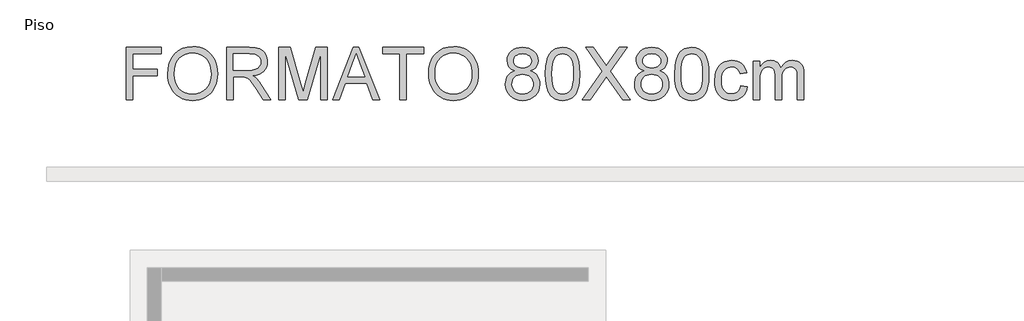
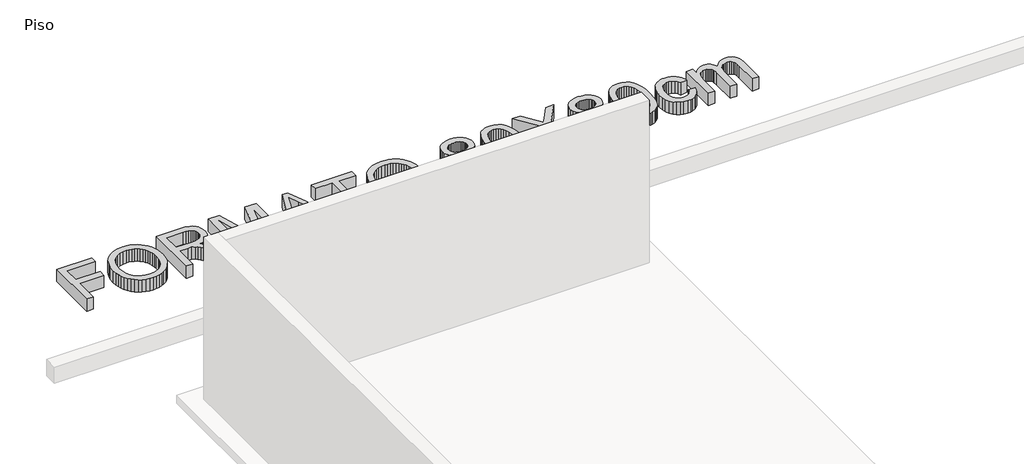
# One storey, part 2 of 2: 1 proxy.
"""IFC4 building model written with IfcOpenShell, lengths in millimetres."""

import ifcopenshell
import ifcopenshell.guid

model = None  # the IFC model being written
_history = None  # IfcOwnerHistory: only IFC2X3 demands one
_inside = {}  # id of a spatial element -> (the spatial element, [elements in it])
_under = {}  # id of a project, library or spatial element -> (it, [spatial elements below it])
_declared = {}  # id of a project -> (the project, [libraries it declares])
_typed = {}  # id of a type object -> (the type object, [elements of that type])
_made_of = {}  # id of a material, layer set ... -> (it, [elements and type objects made of it])


def new_model(schema):
    """Start an empty IFC model of exactly this schema.

    Asked for "IFC4X3", IfcOpenShell would pick the latest addendum, in which some entities
    have other attributes; the version numbers below select the first issue.
    IFC2X3 requires an IfcOwnerHistory on every rooted entity: one is made here for all.
    """
    global model, _history
    if schema == "IFC4X3":
        model = ifcopenshell.file(schema_version=(4, 3, 0, 0))
    else:
        model = ifcopenshell.file(schema=schema)
    _inside.clear()
    _under.clear()
    _declared.clear()
    _typed.clear()
    _made_of.clear()
    _history = None
    if model.schema == "IFC2X3":
        org = make("IfcOrganization", Name="unknown")
        user = make(
            "IfcPersonAndOrganization",
            ThePerson=make("IfcPerson", FamilyName="unknown"),
            TheOrganization=org,
        )
        app = make(
            "IfcApplication",
            ApplicationDeveloper=org,
            Version="unknown",
            ApplicationFullName="unknown",
            ApplicationIdentifier="unknown",
        )
        _history = make(
            "IfcOwnerHistory",
            OwningUser=user,
            OwningApplication=app,
            ChangeAction="ADDED",
            CreationDate=0,
        )
    return model


def make(cls, **values):
    """One entity of the class cls with the attributes given. An attribute that is None is left unset."""
    return model.create_entity(
        cls, **{name: value for name, value in values.items() if value is not None}
    )


def rooted(cls, **values):
    """An entity with a GlobalId (a new one), such as an element, a storey or a relation."""
    return make(cls, GlobalId=ifcopenshell.guid.new(), OwnerHistory=_history, **values)


def si_unit(unit_type, name, prefix=None):
    """IfcSIUnit, for example si_unit("LENGTHUNIT", "METRE", prefix="MILLI")."""
    return make("IfcSIUnit", UnitType=unit_type, Prefix=prefix, Name=name)


def assignment(units):
    """IfcUnitAssignment: the units of a project."""
    return None if units is None else make("IfcUnitAssignment", Units=units)


def point(xyz):
    """IfcCartesianPoint."""
    return None if xyz is None else make("IfcCartesianPoint", Coordinates=xyz)


def direction(xyz):
    """IfcDirection."""
    return None if xyz is None else make("IfcDirection", DirectionRatios=xyz)


def frame(location, z_axis=None, x_axis=None):
    """IfcAxis2Placement3D, a coordinate frame: its origin and axes. An axis left out is left unset."""
    return make(
        "IfcAxis2Placement3D",
        Location=point(location),
        Axis=direction(z_axis),
        RefDirection=direction(x_axis),
    )


def origin():
    """The frame at (0, 0, 0) with its axes left unset."""
    return frame((0.0, 0.0, 0.0))


def origin_with_axes():
    """The frame at (0, 0, 0) with the z axis (0, 0, 1) and the x axis (1, 0, 0) written out."""
    return frame((0.0, 0.0, 0.0), z_axis=(0.0, 0.0, 1.0), x_axis=(1.0, 0.0, 0.0))


def place(relative_to, where):
    """IfcLocalPlacement: puts the frame where relative to a parent placement (None: the world)."""
    return make(
        "IfcLocalPlacement", PlacementRelTo=relative_to, RelativePlacement=where
    )


def context(
    kind, dimensions, precision=None, world=None, true_north=None, identifier=None
):
    """IfcGeometricRepresentationContext, for example the 3D "Model" context."""
    return make(
        "IfcGeometricRepresentationContext",
        ContextIdentifier=identifier,
        ContextType=kind,
        CoordinateSpaceDimension=dimensions,
        Precision=precision,
        WorldCoordinateSystem=world,
        TrueNorth=true_north,
    )


def project(units=None, contexts=None):
    """IfcProject with its units and contexts."""
    return rooted(
        "IfcProject",
        Name="project",
        RepresentationContexts=contexts,
        UnitsInContext=assignment(units),
    )


def spatial(cls, under=None, at=None, **own):
    """A site, building, storey or space (cls), placed at a placement, below another one or the project."""
    s = rooted(cls, ObjectPlacement=at, **own)
    if under is not None:
        _under.setdefault(under.id(), (under, []))[1].append(s)
    return s


def polyline(points):
    """IfcPolyline through the points."""
    return make("IfcPolyline", Points=[point(p) for p in points])


def outline(outer, holes=None, kind="AREA"):
    """IfcArbitraryClosedProfileDef: a profile drawn as a closed curve; with holes, ...WithVoids."""
    if holes is None:
        return make("IfcArbitraryClosedProfileDef", ProfileType=kind, OuterCurve=outer)
    return make(
        "IfcArbitraryProfileDefWithVoids",
        ProfileType=kind,
        OuterCurve=outer,
        InnerCurves=holes,
    )


def extrude(swept, where, along, depth):
    """IfcExtrudedAreaSolid: the profile swept, set in the frame where, extruded along a direction by depth."""
    return make(
        "IfcExtrudedAreaSolid",
        SweptArea=swept,
        Position=where,
        ExtrudedDirection=direction(along),
        Depth=depth,
    )


def shape(context_of_items, identifier, shape_type, items):
    """IfcShapeRepresentation: the items that make up one representation, for example the "Body"."""
    return make(
        "IfcShapeRepresentation",
        ContextOfItems=context_of_items,
        RepresentationIdentifier=identifier,
        RepresentationType=shape_type,
        Items=items,
    )


def made_of(thing, what):
    """Note that an element or type object is made of a material, layer set ...; save() writes the relation."""
    if what is not None:
        _made_of.setdefault(what.id(), (what, []))[1].append(thing)
    return thing


def element(
    cls,
    number,
    at=None,
    inside=None,
    cuts=None,
    type_object=None,
    material=None,
    context=None,
    identifier="Body",
    shape_type=None,
    held_by="IfcProductDefinitionShape",
    body=None,
    shapes=None,
    **own,
):
    """One element of the class cls, such as IfcWall. Its Tag is "e" and its number.

    at: its placement. inside: the storey or other place that contains it. cuts: it is an
    opening in that element (IfcRelVoidsElement). A single representation is given by context,
    identifier, shape_type and body (its items); several are given by shapes. held_by: the class
    of the entity that holds the representations. save() writes the other relations.
    """
    e = rooted(cls, Tag="e%d" % number, ObjectPlacement=at, **own)
    if body is not None:
        shapes = [shape(context, identifier, shape_type, body)]
    if shapes is not None:
        e.Representation = make(held_by, Representations=shapes)
    if inside is not None:
        _inside.setdefault(inside.id(), (inside, []))[1].append(e)
    if cuts is not None:
        rooted(
            "IfcRelVoidsElement", RelatingBuildingElement=cuts, RelatedOpeningElement=e
        )
    if type_object is not None:
        _typed.setdefault(type_object.id(), (type_object, []))[1].append(e)
    return made_of(e, material)


def aggregate(whole, parts):
    """IfcRelAggregates: a whole, such as a stair, and the parts it consists of."""
    return rooted("IfcRelAggregates", RelatingObject=whole, RelatedObjects=parts)


def save(model, path):
    """Write the relations noted so far, then the file.

    IfcRelAggregates (storeys below a building ...), IfcRelContainedInSpatialStructure (elements
    in a storey), IfcRelDefinesByType, IfcRelAssociatesMaterial and IfcRelDeclares: one each for
    every whole, place, type object, material and project.
    """
    for whole, parts in _under.values():
        aggregate(whole, parts)
    for where, things in _inside.values():
        rooted(
            "IfcRelContainedInSpatialStructure",
            RelatedElements=things,
            RelatingStructure=where,
        )
    for kind, things in _typed.values():
        rooted("IfcRelDefinesByType", RelatedObjects=things, RelatingType=kind)
    for what, things in _made_of.values():
        rooted("IfcRelAssociatesMaterial", RelatedObjects=things, RelatingMaterial=what)
    for by, libraries in _declared.values():
        rooted("IfcRelDeclares", RelatingContext=by, RelatedDefinitions=libraries)
    model.write(path)


model = new_model("IFC4")

# Units and contexts
model_context = context("Model", 3, world=origin())
ifc_project = project(units=[si_unit("LENGTHUNIT", "METRE", prefix="MILLI")], contexts=[model_context])

# Site, building, storey
site = spatial("IfcSite", under=ifc_project)
building = spatial("IfcBuilding", under=site)
storey = spatial("IfcBuildingStorey", under=building, Name="Piso", Elevation=0.0)

# Proxy
placement = place(None, origin())
element("IfcBuildingElementProxy", 1, Name="600mm Arial", ObjectType="600mm Arial", at=placement, inside=storey, context=model_context, shape_type="SweptSolid", body=[
    extrude(outline(polyline([(92602.0859381, 2702.6380465), (92602.0859381, 3305.3759074), (93007.0504384, 3305.3759074), (93007.0504384, 3230.0336748), (92677.4281707, 3230.0336748), (92677.4281707, 3051.0958724), (92959.961543, 3051.0958724), (92959.961543, 2975.7536397), (92677.4281707, 2975.7536397), (92677.4281707, 2702.6380465), (92602.0859381, 2702.6380465)])), origin_with_axes(), (0.0, 0.0, 1.0), 150.0),
    extrude(outline(polyline([(93082.392671, 2996.0607259), (93087.4142602, 3066.7584483), (93102.4790279, 3129.3443727), (93127.5869741, 3183.8184992), (93143.9071391, 3208.0136381), (93162.7380987, 3230.1808276), (93205.8262774, 3267.1989534), (93254.7453857, 3293.6404718), (93309.4954237, 3309.5053828), (93370.0763912, 3314.7936865), (93410.6261841, 3312.310483), (93449.134232, 3304.8608726), (93485.6005348, 3292.4448553), (93520.0250925, 3275.062431), (93551.4422148, 3253.2378317), (93578.8862117, 3227.495289), (93602.357083, 3197.8348032), (93621.8548287, 3164.2563741), (93637.1771138, 3127.5233569), (93648.1216032, 3088.3991067), (93654.6882968, 3046.8836235), (93656.8771947, 3002.9769074), (93654.5733337, 2958.4907771), (93647.6617507, 2916.4142739), (93636.1424457, 2876.7473978), (93620.0154187, 2839.4901487), (93599.6623474, 2805.6266111), (93575.4649091, 2776.1408692), (93547.423104, 2751.032923), (93515.5369321, 2730.3027726), (93481.0617906, 2714.0791766), (93445.2530769, 2702.4908937), (93408.110791, 2695.537924), (93369.6349328, 2693.2202674), (93328.3769671, 2695.7816458), (93289.3630815, 2703.465781), (93252.5932761, 2716.272673), (93218.0675508, 2734.2023217), (93186.6872166, 2756.56035), (93159.3535844, 2782.6523805), (93136.0666541, 2812.4784132), (93116.8264257, 2846.0384482), (93101.761658, 2881.9851177), (93091.0011097, 2918.9710538), (93084.5447807, 2956.9962565), (93082.392671, 2996.0607259)]), holes=[polyline([(93157.7349036, 2995.3249619), (93161.5010955, 2945.375784), (93172.7996713, 2901.0368065), (93191.6306309, 2862.3080295), (93217.9939744, 2829.1894529), (93250.0410947, 2802.665161), (93285.9233848, 2783.7192383), (93325.6408447, 2772.3516846), (93369.1934744, 2768.5625001), (93413.4910652, 2772.3884728), (93453.6775746, 2783.8663911), (93489.7530028, 2802.9962548), (93521.7173496, 2829.7780641), (93547.8875551, 2863.5956165), (93566.5805589, 2903.8327097), (93577.7963613, 2950.4893437), (93581.5349621, 3003.5655186), (93579.9346754, 3038.0452586), (93575.1338153, 3070.2625243), (93567.1323819, 3100.2173158), (93555.9303752, 3127.9096329), (93541.6519553, 3152.9761924), (93524.4212823, 3175.0537106), (93504.2383563, 3194.1421877), (93481.1031774, 3210.2416235), (93455.7331153, 3223.0209243), (93428.84554, 3232.1489963), (93400.4404514, 3237.6258395), (93370.5178496, 3239.4514539), (93328.4781346, 3235.9335823), (93289.4734461, 3225.3799676), (93253.503784, 3207.7906097), (93220.5691484, 3183.1655086), (93193.0791663, 3150.318245), (93173.4434648, 3108.0623993), (93161.6620439, 3056.3979716), (93157.7349036, 2995.3249619)])]), origin_with_axes(), (0.0, 0.0, 1.0), 150.0),
    extrude(outline(polyline([(93760.4727645, 2702.6380465), (93760.4727645, 3305.3759074), (94020.1974531, 3305.3759074), (94090.0030617, 3301.3108114), (94140.7891711, 3289.1155232), (94160.3880844, 3279.4218327), (94177.9084644, 3266.6011451), (94193.3503112, 3250.6534606), (94206.7136247, 3231.5787792), (94217.4971656, 3210.4025718), (94225.1996949, 3188.1503097), (94229.8212125, 3164.8219926), (94231.3617183, 3140.4176208), (94228.809537, 3109.4603509), (94221.152993, 3081.0414668), (94208.3920863, 3055.1609684), (94190.5268169, 3031.8188558), (94167.3272585, 3011.76009), (94138.563485, 2995.7296321), (94104.2354964, 2983.727482), (94064.3432925, 2975.7536397), (94089.1753272, 2959.5300438), (94107.1647568, 2943.527177), (94138.0300562, 2906.9229184), (94168.233168, 2865.9776524), (94268.738529, 2702.6380465), (94181.1826142, 2702.6380465), (94102.7501728, 2827.5707721), (94046.0963456, 2910.2706446), (94025.0351013, 2934.3853094), (94006.2915137, 2949.3397125), (93970.4598074, 2963.6871103), (93926.7554263, 2966.3358607), (93835.8149971, 2966.3358607), (93835.8149971, 2702.6380465), (93760.4727645, 2702.6380465)]), holes=[polyline([(93835.8149971, 3041.6780933), (94004.4521037, 3041.6780933), (94052.8837684, 3044.3452377), (94090.4629142, 3052.3466711), (94118.7530396, 3066.2158224), (94139.3176431, 3086.4861203), (94151.8440251, 3111.0054553), (94156.0194857, 3137.6217176), (94154.0283244, 3156.8895371), (94148.0548405, 3174.3731289), (94138.099034, 3190.0724931), (94124.1609049, 3203.9876296), (94105.9185565, 3215.3827744), (94083.050092, 3223.5221635), (94055.5555114, 3228.405797), (94023.4348147, 3230.0336748), (93835.8149971, 3230.0336748), (93835.8149971, 3041.6780933)])]), origin_with_axes(), (0.0, 0.0, 1.0), 150.0),
    extrude(outline(polyline([(94363.2106254, 2702.6380465), (94363.2106254, 3305.3759074), (94492.8522405, 3305.3759074), (94616.1662853, 2880.5457794), (94641.0351082, 2791.8126422), (94667.9640702, 2887.9034193), (94789.2179758, 3305.3759074), (94918.8595909, 3305.3759074), (94918.8595909, 2702.6380465), (94843.5173583, 2702.6380465), (94843.5173583, 3230.0336748), (94692.0971291, 2702.6380465), (94589.9730872, 2702.6380465), (94438.552858, 3230.0336748), (94438.552858, 2702.6380465), (94363.2106254, 2702.6380465)])), origin_with_axes(), (0.0, 0.0, 1.0), 150.0),
    extrude(outline(polyline([(94980.5166133, 2702.6380465), (95221.1114382, 3305.3759074), (95285.2700581, 3305.3759074), (95525.864883, 2702.6380465), (95446.2552192, 2702.6380465), (95377.2405569, 2890.9936281), (95128.9937866, 2890.9936281), (95060.1262771, 2702.6380465), (94980.5166133, 2702.6380465)]), holes=[polyline([(95156.6585126, 2966.3358607), (95349.7229837, 2966.3358607), (95295.4236012, 3114.5187283), (95253.1907481, 3230.0336748), (95215.6667846, 3127.4681746), (95156.6585126, 2966.3358607)])]), origin_with_axes(), (0.0, 0.0, 1.0), 150.0),
    extrude(outline(polyline([(95757.0419287, 2702.6380465), (95757.0419287, 3230.0336748), (95559.2685681, 3230.0336748), (95559.2685681, 3305.3759074), (96030.1575219, 3305.3759074), (96030.1575219, 3230.0336748), (95832.3841613, 3230.0336748), (95832.3841613, 2702.6380465), (95757.0419287, 2702.6380465)])), origin_with_axes(), (0.0, 0.0, 1.0), 150.0),
    extrude(outline(polyline([(96086.6641964, 2996.0607259), (96091.6857856, 3066.7584483), (96106.7505533, 3129.3443727), (96131.8584995, 3183.8184992), (96148.1786645, 3208.0136381), (96167.0096242, 3230.1808276), (96210.0978028, 3267.1989534), (96259.0169111, 3293.6404718), (96313.7669491, 3309.5053828), (96374.3479166, 3314.7936865), (96414.8977096, 3312.310483), (96453.4057574, 3304.8608726), (96489.8720602, 3292.4448553), (96524.2966179, 3275.062431), (96555.7137403, 3253.2378317), (96583.1577371, 3227.495289), (96606.6286084, 3197.8348032), (96626.1263541, 3164.2563741), (96641.4486392, 3127.5233569), (96652.3931286, 3088.3991067), (96658.9598222, 3046.8836235), (96661.1487201, 3002.9769074), (96658.8448591, 2958.4907771), (96651.9332761, 2916.4142739), (96640.4139711, 2876.7473978), (96624.2869442, 2839.4901487), (96603.9338728, 2805.6266111), (96579.7364345, 2776.1408692), (96551.6946295, 2751.032923), (96519.8084575, 2730.3027726), (96485.3333161, 2714.0791766), (96449.5246024, 2702.4908937), (96412.3823164, 2695.537924), (96373.9064582, 2693.2202674), (96332.6484925, 2695.7816458), (96293.6346069, 2703.465781), (96256.8648015, 2716.272673), (96222.3390762, 2734.2023217), (96190.958742, 2756.56035), (96163.6251098, 2782.6523805), (96140.3381795, 2812.4784132), (96121.0979512, 2846.0384482), (96106.0331835, 2881.9851177), (96095.2726351, 2918.9710538), (96088.8163061, 2956.9962565), (96086.6641964, 2996.0607259)]), holes=[polyline([(96162.006429, 2995.3249619), (96165.7726209, 2945.375784), (96177.0711967, 2901.0368065), (96195.9021564, 2862.3080295), (96222.2654998, 2829.1894529), (96254.3126201, 2802.665161), (96290.1949102, 2783.7192383), (96329.9123701, 2772.3516846), (96373.4649998, 2768.5625001), (96417.7625906, 2772.3884728), (96457.9491, 2783.8663911), (96494.0245282, 2802.9962548), (96525.988875, 2829.7780641), (96552.1590805, 2863.5956165), (96570.8520844, 2903.8327097), (96582.0678867, 2950.4893437), (96585.8064875, 3003.5655186), (96584.2062008, 3038.0452586), (96579.4053407, 3070.2625243), (96571.4039074, 3100.2173158), (96560.2019006, 3127.9096329), (96545.9234807, 3152.9761924), (96528.6928077, 3175.0537106), (96508.5098818, 3194.1421877), (96485.3747028, 3210.2416235), (96460.0046407, 3223.0209243), (96433.1170654, 3232.1489963), (96404.7119768, 3237.6258395), (96374.789375, 3239.4514539), (96332.74966, 3235.9335823), (96293.7449715, 3225.3799676), (96257.7753094, 3207.7906097), (96224.8406738, 3183.1655086), (96197.3506917, 3150.318245), (96177.7149902, 3108.0623993), (96165.9335693, 3056.3979716), (96162.006429, 2995.3249619)])]), origin_with_axes(), (0.0, 0.0, 1.0), 150.0),
    extrude(outline(polyline([(97081.711417, 3034.614759), (97041.3731562, 3054.4803867), (97025.7151788, 3067.0619509), (97013.0646367, 3081.4093488), (96996.3444, 3114.8498221), (96990.7709878, 3154.2499838), (96993.8060142, 3184.9773275), (97002.9110936, 3213.1478912), (97018.0862259, 3238.7616751), (97039.3314111, 3261.8186792), (97065.6257767, 3280.8749665), (97095.9484502, 3294.4866004), (97130.2994315, 3302.6535807), (97168.6787206, 3305.3759074), (97207.2419508, 3302.5892013), (97241.8504495, 3294.229083), (97272.5042167, 3280.2955524), (97299.2032525, 3260.7886096), (97320.8347138, 3237.2809501), (97336.2857576, 3211.3452695), (97345.5563839, 3182.9815676), (97348.6465927, 3152.1898446), (97343.1467568, 3114.0588758), (97326.6472494, 3081.1886196), (97314.2266335, 3066.9377908), (97298.9641292, 3054.4252044), (97259.9134554, 3034.614759), (97284.6765122, 3024.0795383), (97306.2849809, 3010.7208234), (97324.7388615, 2994.5386141), (97340.038154, 2975.5329105), (97352.0449026, 2954.126777), (97360.6211516, 2930.7432776), (97365.766901, 2905.3824126), (97367.4821508, 2878.0441818), (97364.0792424, 2840.465036), (97353.870517, 2806.0128872), (97336.8559747, 2774.6877353), (97313.0356155, 2746.4895804), (97283.6602382, 2723.184256), (97249.9806416, 2706.5375957), (97211.9968256, 2696.5495995), (97169.7087902, 2693.2202674), (97127.4207549, 2696.5633951), (97089.4369389, 2706.592778), (97055.7573422, 2723.3084161), (97026.3819649, 2746.7103095), (97002.5616057, 2775.1062011), (96985.5470634, 2806.8038335), (96975.3383381, 2841.8032068), (96971.9354296, 2880.104321), (96973.7196573, 2908.688752), (96979.0723403, 2934.8451619), (96987.9934787, 2958.5735506), (97000.4830724, 2979.8739181), (97016.26521, 2998.3599883), (97035.06398, 3013.6454852), (97056.8793823, 3025.7304088), (97081.711417, 3034.614759)]), holes=[polyline([(97066.1132204, 3152.0426918), (97067.7824849, 3134.7706322), (97072.7902786, 3119.1540415), (97081.1366013, 3105.1929197), (97092.8214532, 3092.887267), (97107.6976814, 3082.8440885), (97125.6181331, 3075.6703896), (97146.5828083, 3071.3661703), (97170.591707, 3069.9314305), (97194.007396, 3071.3569732), (97214.5168172, 3075.6336014), (97232.1199707, 3082.7613151), (97246.8168564, 3092.7401142), (97258.4051392, 3104.7882496), (97266.6824841, 3118.1239719), (97271.6488911, 3132.7472812), (97273.3043601, 3148.6581775), (97271.5937088, 3165.1898746), (97266.4617549, 3180.3512114), (97257.9084986, 3194.1421877), (97245.9339396, 3206.5628035), (97230.9059601, 3216.8313097), (97213.192442, 3224.165957), (97192.7933854, 3228.5667454), (97169.7087902, 3230.0336748), (97146.4448525, 3228.598935), (97125.9492269, 3224.2947157), (97108.2219132, 3217.1210168), (97093.2629116, 3207.0778383), (97081.3849217, 3195.029703), (97072.9006432, 3181.8411334), (97067.8100761, 3167.5121297), (97066.1132204, 3152.0426918)]), polyline([(97047.2776622, 2882.7530714), (97050.4230533, 2853.929517), (97059.8592264, 2826.0256677), (97077.2784389, 2801.6902737), (97104.3729479, 2783.5720855), (97136.8201398, 2772.3148964), (97170.2974014, 2768.5625001), (97197.5390631, 2770.5352673), (97221.5801515, 2776.4535689), (97242.4206666, 2786.3174049), (97260.0606082, 2800.1267752), (97274.0953063, 2816.9803692), (97284.1200907, 2835.9768757), (97290.1349613, 2857.1162948), (97292.1399182, 2880.3986266), (97290.070582, 2904.0534389), (97283.8625733, 2925.5745356), (97273.5158922, 2944.9619167), (97259.0305386, 2962.2155823), (97240.9123504, 2976.3790391), (97219.6671652, 2986.495794), (97195.294983, 2992.5658469), (97167.7958038, 2994.5891979), (97140.9542138, 2992.5934381), (97117.2304236, 2986.6061586), (97096.6244333, 2976.6273595), (97079.136243, 2962.6570407), (97065.1981139, 2945.6884837), (97055.2423074, 2926.7149698), (97049.2688235, 2905.736499), (97047.2776622, 2882.7530714)])]), origin_with_axes(), (0.0, 0.0, 1.0), 150.0),
    extrude(outline(polyline([(97433.4066044, 2999.1509346), (97438.9432284, 3095.6279879), (97445.8640084, 3136.5410643), (97455.5531005, 3172.5705072), (97467.9691178, 3204.0106222), (97483.0706737, 3231.1557149), (97500.8577682, 3254.0057853), (97521.3304012, 3272.5608335), (97544.5575507, 3286.9174283), (97570.6081945, 3297.1721389), (97599.4823325, 3303.3249653), (97631.179965, 3305.3759074), (97677.6066727, 3300.5198651), (97719.1773382, 3285.9517381), (97753.9421867, 3262.2417435), (97779.9514438, 3229.9600984), (97799.5963424, 3189.3827143), (97815.2681153, 3140.7855028), (97825.532023, 3079.0732981), (97828.9533256, 2999.1509346), (97823.4718838, 2903.2257044), (97816.6200817, 2862.4505838), (97807.0275587, 2826.4671261), (97794.7081103, 2795.0132155), (97779.6755323, 2767.8267361), (97761.9298246, 2744.9076878), (97741.4709871, 2726.2560706), (97718.2162465, 2711.8029067), (97692.0828293, 2701.4792182), (97663.0707354, 2695.2850051), (97631.179965, 2693.2202674), (97589.6828759, 2696.8071169), (97552.8946764, 2707.5676653), (97520.8153664, 2725.5019125), (97493.444946, 2750.6098587), (97467.1781715, 2795.9972999), (97448.4161898, 2852.5499596), (97437.1590007, 2920.2678378), (97433.4066044, 2999.1509346)]), holes=[polyline([(97508.748837, 2999.2980874), (97510.9561289, 2933.8012967), (97517.5780048, 2880.7849027), (97528.6144647, 2840.2489053), (97544.0655085, 2812.1933047), (97562.7539139, 2793.1048277), (97583.5024584, 2779.4702012), (97606.3111421, 2771.2894254), (97631.179965, 2768.5625001), (97656.0487878, 2771.2986224), (97678.8574715, 2779.5069894), (97699.6060161, 2793.1876011), (97718.2944214, 2812.3404575), (97733.7454652, 2840.4420434), (97744.7819251, 2880.9688437), (97751.403801, 2933.9208584), (97753.611093, 2999.2980874), (97751.4773774, 3063.0612342), (97745.0762307, 3115.1441277), (97734.4076528, 3155.5467678), (97719.4716438, 3184.2691546), (97701.0959381, 3204.2911322), (97680.1082703, 3218.5925448), (97656.5086403, 3227.1733923), (97630.2970482, 3230.0336748), (97605.556984, 3227.5136831), (97583.1345764, 3219.9537081), (97563.0298254, 3207.3537498), (97545.2427309, 3189.7138081), (97529.2766523, 3158.4438385), (97517.8723104, 3116.2845619), (97511.0297053, 3063.2359782), (97508.748837, 2999.2980874)])]), origin_with_axes(), (0.0, 0.0, 1.0), 150.0),
    extrude(outline(polyline([(97857.2066628, 2702.6380465), (98089.5609309, 3031.0830918), (97894.8777791, 3305.3759074), (97985.2295971, 3305.3759074), (98094.8584317, 3151.0126222), (98121.0148415, 3111.9067662), (98131.793784, 3090.8271278), (98175.0567066, 3152.0426918), (98283.5083188, 3305.3759074), (98375.184512, 3305.3759074), (98180.5013602, 3030.200175), (98412.8556283, 2702.6380465), (98322.5038103, 2702.6380465), (98167.6990667, 2921.0127989), (98135.4726039, 2966.3358607), (98100.0087796, 2916.5982149), (97948.882856, 2702.6380465), (97857.2066628, 2702.6380465)])), origin_with_axes(), (0.0, 0.0, 1.0), 150.0),
    extrude(outline(polyline([(98569.7205111, 3034.614759), (98529.3822503, 3054.4803867), (98513.7242729, 3067.0619509), (98501.0737308, 3081.4093488), (98484.3534941, 3114.8498221), (98478.7800818, 3154.2499838), (98481.8151083, 3184.9773275), (98490.9201877, 3213.1478912), (98506.09532, 3238.7616751), (98527.3405052, 3261.8186792), (98553.6348708, 3280.8749665), (98583.9575443, 3294.4866004), (98618.3085256, 3302.6535807), (98656.6878147, 3305.3759074), (98695.2510449, 3302.5892013), (98729.8595436, 3294.229083), (98760.5133108, 3280.2955524), (98787.2123466, 3260.7886096), (98808.8438079, 3237.2809501), (98824.2948517, 3211.3452695), (98833.565478, 3182.9815676), (98836.6556868, 3152.1898446), (98831.1558509, 3114.0588758), (98814.6563434, 3081.1886196), (98802.2357276, 3066.9377908), (98786.9732233, 3054.4252044), (98747.9225495, 3034.614759), (98772.6856063, 3024.0795383), (98794.294075, 3010.7208234), (98812.7479556, 2994.5386141), (98828.0472481, 2975.5329105), (98840.0539967, 2954.126777), (98848.6302457, 2930.7432776), (98853.7759951, 2905.3824126), (98855.4912449, 2878.0441818), (98852.0883365, 2840.465036), (98841.8796111, 2806.0128872), (98824.8650688, 2774.6877353), (98801.0447096, 2746.4895804), (98771.6693323, 2723.184256), (98737.9897356, 2706.5375957), (98700.0059196, 2696.5495995), (98657.7178843, 2693.2202674), (98615.429849, 2696.5633951), (98577.446033, 2706.592778), (98543.7664363, 2723.3084161), (98514.391059, 2746.7103095), (98490.5706998, 2775.1062011), (98473.5561575, 2806.8038335), (98463.3474321, 2841.8032068), (98459.9445237, 2880.104321), (98461.7287514, 2908.688752), (98467.0814344, 2934.8451619), (98476.0025728, 2958.5735506), (98488.4921665, 2979.8739181), (98504.2743041, 2998.3599883), (98523.0730741, 3013.6454852), (98544.8884764, 3025.7304088), (98569.7205111, 3034.614759)]), holes=[polyline([(98554.1223145, 3152.0426918), (98555.791579, 3134.7706322), (98560.7993727, 3119.1540415), (98569.1456954, 3105.1929197), (98580.8305473, 3092.887267), (98595.7067755, 3082.8440885), (98613.6272272, 3075.6703896), (98634.5919024, 3071.3661703), (98658.6008011, 3069.9314305), (98682.0164901, 3071.3569732), (98702.5259113, 3075.6336014), (98720.1290648, 3082.7613151), (98734.8259505, 3092.7401142), (98746.4142333, 3104.7882496), (98754.6915782, 3118.1239719), (98759.6579852, 3132.7472812), (98761.3134541, 3148.6581775), (98759.6028029, 3165.1898746), (98754.470849, 3180.3512114), (98745.9175926, 3194.1421877), (98733.9430337, 3206.5628035), (98718.9150542, 3216.8313097), (98701.2015361, 3224.165957), (98680.8024795, 3228.5667454), (98657.7178843, 3230.0336748), (98634.4539466, 3228.598935), (98613.958321, 3224.2947157), (98596.2310073, 3217.1210168), (98581.2720057, 3207.0778383), (98569.3940158, 3195.029703), (98560.9097373, 3181.8411334), (98555.8191702, 3167.5121297), (98554.1223145, 3152.0426918)]), polyline([(98535.2867563, 2882.7530714), (98538.4321474, 2853.929517), (98547.8683205, 2826.0256677), (98565.287533, 2801.6902737), (98592.382042, 2783.5720855), (98624.8292339, 2772.3148964), (98658.3064955, 2768.5625001), (98685.5481572, 2770.5352673), (98709.5892456, 2776.4535689), (98730.4297606, 2786.3174049), (98748.0697023, 2800.1267752), (98762.1044004, 2816.9803692), (98772.1291848, 2835.9768757), (98778.1440554, 2857.1162948), (98780.1490123, 2880.3986266), (98778.0796761, 2904.0534389), (98771.8716674, 2925.5745356), (98761.5249863, 2944.9619167), (98747.0396327, 2962.2155823), (98728.9214445, 2976.3790391), (98707.6762592, 2986.495794), (98683.3040771, 2992.5658469), (98655.8048979, 2994.5891979), (98628.9633079, 2992.5934381), (98605.2395177, 2986.6061586), (98584.6335274, 2976.6273595), (98567.1453371, 2962.6570407), (98553.207208, 2945.6884837), (98543.2514015, 2926.7149698), (98537.2779176, 2905.736499), (98535.2867563, 2882.7530714)])]), origin_with_axes(), (0.0, 0.0, 1.0), 150.0),
    extrude(outline(polyline([(98921.4156984, 2999.1509346), (98926.9523225, 3095.6279879), (98933.8731025, 3136.5410643), (98943.5621946, 3172.5705072), (98955.9782119, 3204.0106222), (98971.0797678, 3231.1557149), (98988.8668623, 3254.0057853), (99009.3394953, 3272.5608335), (99032.5666448, 3286.9174283), (99058.6172885, 3297.1721389), (99087.4914266, 3303.3249653), (99119.189059, 3305.3759074), (99165.6157668, 3300.5198651), (99207.1864323, 3285.9517381), (99241.9512808, 3262.2417435), (99267.9605379, 3229.9600984), (99287.6054364, 3189.3827143), (99303.2772094, 3140.7855028), (99313.5411171, 3079.0732981), (99316.9624197, 2999.1509346), (99311.4809779, 2903.2257044), (99304.6291758, 2862.4505838), (99295.0366527, 2826.4671261), (99282.7172044, 2795.0132155), (99267.6846264, 2767.8267361), (99249.9389187, 2744.9076878), (99229.4800812, 2726.2560706), (99206.2253406, 2711.8029067), (99180.0919234, 2701.4792182), (99151.0798295, 2695.2850051), (99119.189059, 2693.2202674), (99077.69197, 2696.8071169), (99040.9037705, 2707.5676653), (99008.8244605, 2725.5019125), (98981.4540401, 2750.6098587), (98955.1872656, 2795.9972999), (98936.4252838, 2852.5499596), (98925.1680948, 2920.2678378), (98921.4156984, 2999.1509346)]), holes=[polyline([(98996.7579311, 2999.2980874), (98998.965223, 2933.8012967), (99005.5870989, 2880.7849027), (99016.6235588, 2840.2489053), (99032.0746026, 2812.1933047), (99050.7630079, 2793.1048277), (99071.5115525, 2779.4702012), (99094.3202362, 2771.2894254), (99119.189059, 2768.5625001), (99144.0578819, 2771.2986224), (99166.8665656, 2779.5069894), (99187.6151102, 2793.1876011), (99206.3035155, 2812.3404575), (99221.7545593, 2840.4420434), (99232.7910192, 2880.9688437), (99239.4128951, 2933.9208584), (99241.620187, 2999.2980874), (99239.4864715, 3063.0612342), (99233.0853248, 3115.1441277), (99222.4167469, 3155.5467678), (99207.4807379, 3184.2691546), (99189.1050322, 3204.2911322), (99168.1173644, 3218.5925448), (99144.5177344, 3227.1733923), (99118.3061423, 3230.0336748), (99093.5660781, 3227.5136831), (99071.1436705, 3219.9537081), (99051.0389194, 3207.3537498), (99033.251825, 3189.7138081), (99017.2857464, 3158.4438385), (99005.8814045, 3116.2845619), (98999.0387994, 3063.2359782), (98996.7579311, 2999.2980874)])]), origin_with_axes(), (0.0, 0.0, 1.0), 150.0),
    extrude(outline(polyline([(99684.2558036, 2862.7402908), (99759.5980363, 2853.3225117), (99751.4034648, 2817.7713154), (99738.5919743, 2786.3128063), (99721.1635648, 2758.9469844), (99699.1182362, 2735.6738497), (99673.3848907, 2717.1004075), (99644.8924302, 2703.833663), (99613.6408547, 2695.8736163), (99579.6301642, 2693.2202674), (99537.3743185, 2696.92208), (99499.4870716, 2708.0275178), (99465.9684233, 2726.5365806), (99436.8183737, 2752.4492687), (99413.2233422, 2785.2781382), (99396.3697483, 2824.5357456), (99386.257592, 2870.2220909), (99382.8868732, 2922.337174), (99388.6442264, 2989.3836677), (99395.8409179, 3019.5545898), (99405.9162861, 3047.4906288), (99418.9393087, 3072.6307646), (99434.9789637, 3094.4139773), (99454.0352511, 3112.8402667), (99476.1081708, 3127.9096329), (99500.1998429, 3139.6266745), (99525.3123876, 3147.9959899), (99551.4458049, 3153.0175791), (99578.6000946, 3154.6914422), (99612.0267724, 3152.3921797), (99642.2620739, 3145.4943923), (99669.3059991, 3133.99808), (99693.1585479, 3117.9032427), (99713.4150503, 3097.5777624), (99729.6708359, 3073.3895213), (99741.9259049, 3045.3385191), (99750.1802572, 3013.4247561), (99674.8380246, 3004.006977), (99661.1712084, 3036.8772332), (99639.889235, 3060.440075), (99612.1693267, 3074.6219259), (99579.1887058, 3079.3492096), (99553.5887175, 3077.022356), (99530.4995238, 3070.0417951), (99509.9211247, 3058.407527), (99491.8535202, 3042.1195517), (99477.1428389, 3020.8007901), (99466.6352094, 2994.0741631), (99460.3306317, 2961.9396708), (99458.2291058, 2924.3973132), (99460.2846465, 2886.289337), (99466.4512684, 2853.7823642), (99476.7289716, 2826.8763948), (99491.1177562, 2805.5714288), (99508.8266757, 2789.3800225), (99529.064784, 2777.8147322), (99551.832081, 2770.8755581), (99577.1285666, 2768.5625001), (99616.1424522, 2774.3382474), (99633.0144402, 2781.5579315), (99648.1297917, 2791.6654894), (99661.0654424, 2804.7712854), (99671.3983279, 2820.9856844), (99679.1284483, 2840.3086862), (99684.2558036, 2862.7402908)])), origin_with_axes(), (0.0, 0.0, 1.0), 150.0),
    extrude(outline(polyline([(99825.5224898, 2702.6380465), (99825.5224898, 3145.2736631), (99900.8647224, 3145.2736631), (99900.8647224, 3072.4330281), (99923.5262533, 3105.8918955), (99952.6625073, 3132.1034877), (99987.2802031, 3149.0444536), (100026.3860592, 3154.6914422), (100068.2878184, 3148.934089), (100086.1208981, 3141.7373974), (100101.8754446, 3131.6620293), (100126.9649966, 3104.0156974), (100143.3725336, 3067.1355273), (100170.8349246, 3105.4412401), (100202.1600765, 3132.8024635), (100237.3479893, 3149.2191975), (100276.3986631, 3154.6914422), (100306.5603882, 3152.4151724), (100333.0340962, 3145.5863628), (100355.8197873, 3134.2050136), (100374.9174614, 3118.2711247), (100390.0144188, 3097.6007551), (100400.7979597, 3072.0099638), (100407.2680843, 3041.4987508), (100409.4247925, 3006.0671161), (100409.4247925, 2702.6380465), (100334.0825599, 2702.6380465), (100334.0825599, 2973.6935006), (100332.3351204, 3011.2726464), (100327.092802, 3036.6013217), (100317.2703527, 3053.9469578), (100301.7825207, 3067.5769857), (100281.8617107, 3076.4061536), (100258.7403273, 3079.3492096), (100237.389376, 3077.4638144), (100217.9238199, 3071.8076287), (100200.3436591, 3062.3806526), (100184.6488935, 3049.182886), (100171.740834, 3031.8280529), (100162.5207915, 3009.9298771), (100156.988766, 2983.4883587), (100155.1447575, 2952.5034976), (100155.1447575, 2702.6380465), (100079.8025249, 2702.6380465), (100079.8025249, 2982.0812101), (100075.4431232, 3024.6819451), (100069.9938712, 3041.4021818), (100062.3649183, 3055.0689979), (100052.2527619, 3065.6915905), (100039.3538995, 3073.2791567), (100023.6683309, 3077.8316964), (100005.1960562, 3079.3492096), (99976.1701668, 3075.3025076), (99949.4251458, 3063.1624018), (99927.3522261, 3043.2231977), (99912.3426407, 3015.7792008), (99903.734202, 2977.7034143), (99900.8647224, 2925.8688412), (99900.8647224, 2702.6380465), (99825.5224898, 2702.6380465)])), origin_with_axes(), (0.0, 0.0, 1.0), 150.0),
])

save(model, "model.ifc")
